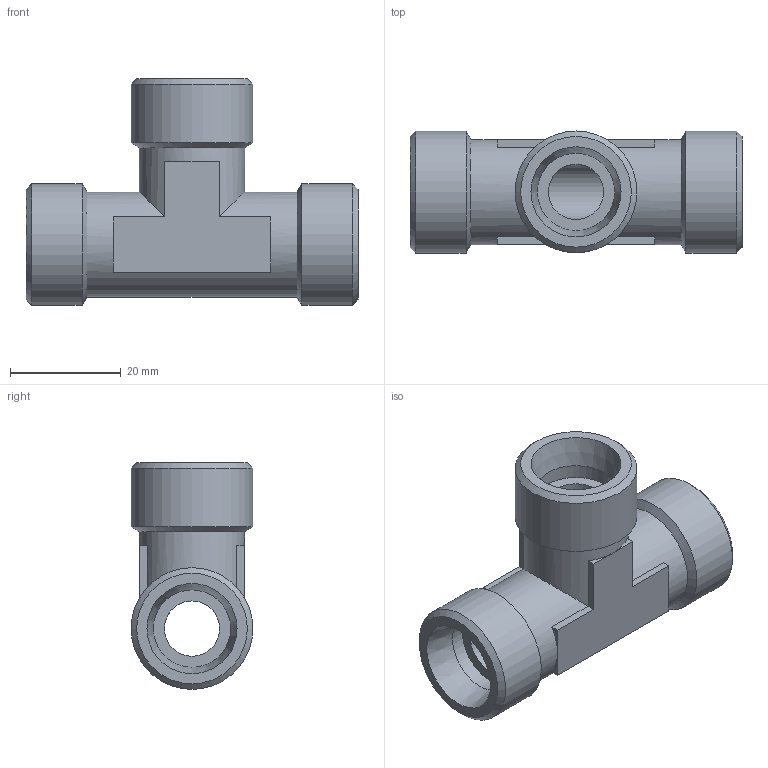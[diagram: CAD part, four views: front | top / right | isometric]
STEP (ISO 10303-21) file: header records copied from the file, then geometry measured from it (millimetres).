
FILE_DESCRIPTION( ( 'Unknown' ), '1' );
FILE_NAME( 'C:/Users/p.nanko/Desktop/3D SR/XT14S.stp', 'Unknown', ( 'Peter Nanko' ), ( 'Armaturen Arndt' ), 'PSStep 14.0', 'Solid Edge ST4', ' ' );
FILE_SCHEMA( ( 'AUTOMOTIVE_DESIGN { 1 0 10303 214 1 1 1 1 }' ) );
Length unit declared in the file: millimetre
Products named in the file (1): 1
Bounding box: 60 x 22 x 41 mm (x, y, z)
Volume: 17687.3 mm3; surface area: 8930.5 mm2
Topology: 1 solids, 1 shells, 49 faces, 112 edges, 68 vertices
Faces by surface type: plane 30, cylinder 10, cone 9
Full cylindrical faces by diameter (mm): 10 x2, 14 x3, 19 x2, 22 x3
Entity records: 1646 total; most frequent: DIRECTION 228, CARTESIAN_POINT 202, ORIENTED_EDGE 176, AXIS2_PLACEMENT_3D 90, EDGE_CURVE 88, EDGE_LOOP 76, VERTEX_POINT 64, FACE_OUTER_BOUND 59
